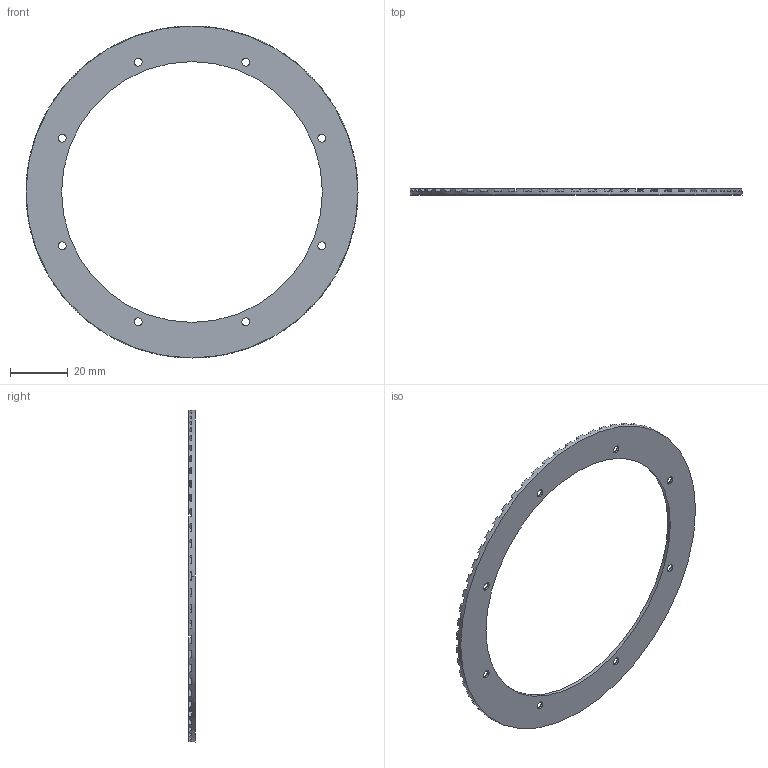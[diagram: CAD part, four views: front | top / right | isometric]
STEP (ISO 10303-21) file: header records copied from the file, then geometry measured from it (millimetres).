
FILE_DESCRIPTION((''),'2;1');
FILE_NAME('SAR115','2024-11-21T',('Cujo'),(''),'PRO/ENGINEER BY PARAMETRIC TECHNOLOGY CORPORATION, 2017170','PRO/ENGINEER BY PARAMETRIC TECHNOLOGY CORPORATION, 2017170','');
FILE_SCHEMA(('CONFIG_CONTROL_DESIGN'));
Length unit declared in the file: millimetre
Products named in the file (1): SAR115
Bounding box: 114.6 x 2.1 x 114.6 mm (x, y, z)
Volume: 5858.3 mm3; surface area: 10039.3 mm2
Topology: 1 solids, 1 shells, 334 faces, 956 edges, 632 vertices
Faces by surface type: plane 202, cylinder 116, cone 16
Entity records: 13993 total; most frequent: DIRECTION 2000, CARTESIAN_POINT 1922, ORIENTED_EDGE 1912, PRESENTATION_STYLE_ASSIGNMENT 957, STYLED_ITEM 957, CURVE_STYLE 956, EDGE_CURVE 956, AXIS2_PLACEMENT_3D 710
